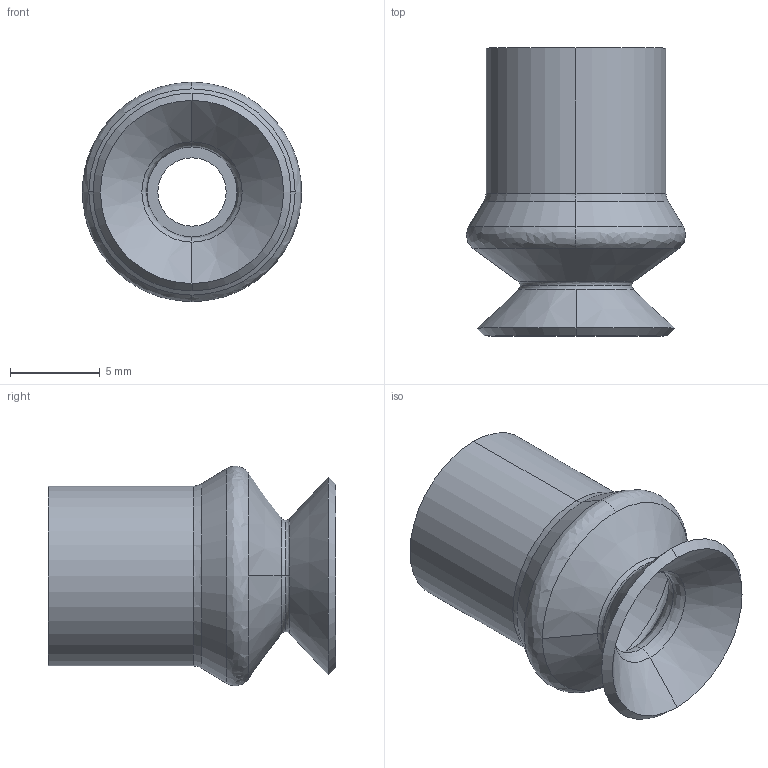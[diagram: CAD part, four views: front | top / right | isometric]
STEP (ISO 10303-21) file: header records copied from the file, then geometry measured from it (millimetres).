
FILE_DESCRIPTION (( 'STEP AP214' ), '1' );
FILE_NAME ('VS2-SA11.STEP', '2019-11-13T08:02:27', ( '微软用户' ), ( '微软中国' ), 'SwSTEP 2.0', 'SolidWorks 2016', '' );
FILE_SCHEMA (( 'AUTOMOTIVE_DESIGN' ));
Length unit declared in the file: millimetre
Products named in the file (1): VS2-SA11
Bounding box: 12.2 x 16 x 12.2 mm (x, y, z)
Volume: 777.8 mm3; surface area: 1050.2 mm2
Topology: 1 solids, 1 shells, 34 faces, 72 edges, 40 vertices
Faces by surface type: cone 14, bspline 14, cylinder 4, plane 2
Entity records: 1096 total; most frequent: CARTESIAN_POINT 399, ORIENTED_EDGE 144, DIRECTION 140, EDGE_CURVE 72, AXIS2_PLACEMENT_3D 61, CIRCLE 40, VERTEX_POINT 40, EDGE_LOOP 36
